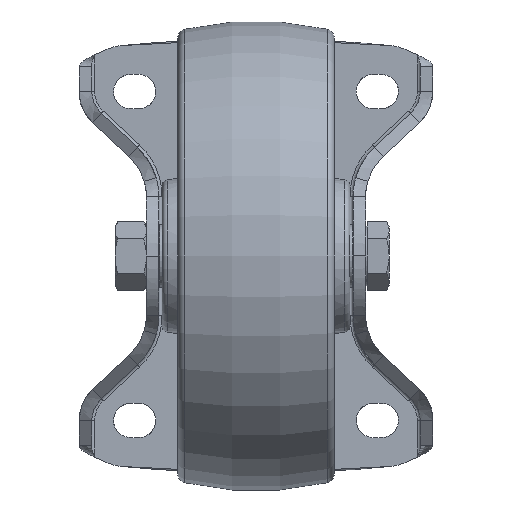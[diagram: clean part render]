
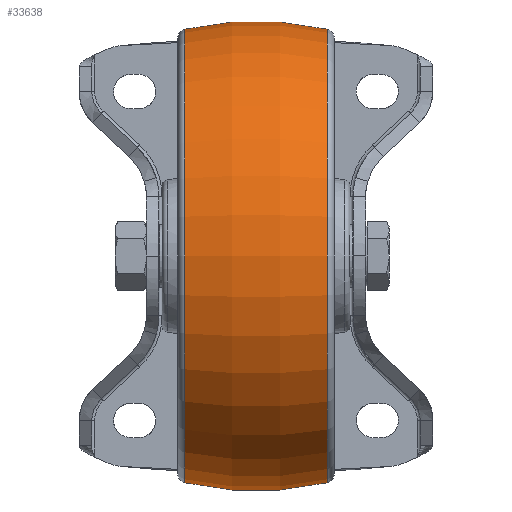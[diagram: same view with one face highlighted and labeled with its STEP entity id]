
A CAD part, front view. The second image highlights one B-rep face of the part: STEP entity #33638.
In plain terms, the highlighted toroidal (fillet/blend) face has major radius 25 mm and minor radius 100 mm.
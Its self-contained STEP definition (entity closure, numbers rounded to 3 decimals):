
#293 = ORIENTED_EDGE ( 'NONE', *, *, #36849, .F. ) ;
#294 = ORIENTED_EDGE ( 'NONE', *, *, #24505, .T. ) ;
#295 = ORIENTED_EDGE ( 'NONE', *, *, #36851, .T. ) ;
#296 = ORIENTED_EDGE ( 'NONE', *, *, #24478, .F. ) ;
#2134 = FACE_OUTER_BOUND ( 'NONE', #40035, .T. ) ;
#2154 = TOROIDAL_SURFACE ( 'NONE', #22835, -25., 100. ) ;
#8243 = AXIS2_PLACEMENT_3D ( 'NONE', #33921, #33922, #33923 ) ;
#8248 = AXIS2_PLACEMENT_3D ( 'NONE', #33927, #33928, #33929 ) ;
#9665 = CARTESIAN_POINT ( 'NONE',  ( 0., 0., 0. ) ) ;
#9684 = DIRECTION ( 'NONE',  ( -1., 0., 0. ) ) ;
#9686 = DIRECTION ( 'NONE',  ( 0., 0., 1. ) ) ;
#9794 = CIRCLE ( 'NONE', #13183, 100. ) ;
#9874 = CIRCLE ( 'NONE', #13173, 100. ) ;
#13173 = AXIS2_PLACEMENT_3D ( 'NONE', #16954, #16952, #16949 ) ;
#13183 = AXIS2_PLACEMENT_3D ( 'NONE', #17366, #17364, #17361 ) ;
#16949 = DIRECTION ( 'NONE',  ( 0., 0., -1. ) ) ;
#16952 = DIRECTION ( 'NONE',  ( 0., -1., 0. ) ) ;
#16954 = CARTESIAN_POINT ( 'NONE',  ( 0., 0., -25. ) ) ;
#17361 = DIRECTION ( 'NONE',  ( 0., 0., 1. ) ) ;
#17364 = DIRECTION ( 'NONE',  ( 0., 1., 0. ) ) ;
#17366 = CARTESIAN_POINT ( 'NONE',  ( 0., 0., 25. ) ) ;
#18083 = CARTESIAN_POINT ( 'NONE',  ( -22.68, 0., 72.394 ) ) ;
#18084 = CARTESIAN_POINT ( 'NONE',  ( -22.68, 0., -72.394 ) ) ;
#18085 = CARTESIAN_POINT ( 'NONE',  ( 22.68, 0., -72.394 ) ) ;
#18086 = CARTESIAN_POINT ( 'NONE',  ( 22.68, 0., 72.394 ) ) ;
#22835 = AXIS2_PLACEMENT_3D ( 'NONE', #9665, #9684, #9686 ) ;
#24478 = EDGE_CURVE ( 'NONE', #42190, #42188, #9794, .T. ) ;
#24505 = EDGE_CURVE ( 'NONE', #42192, #42187, #9874, .T. ) ;
#32272 = CIRCLE ( 'NONE', #8243, 72.394 ) ;
#32274 = CIRCLE ( 'NONE', #8248, 72.394 ) ;
#33638 = ADVANCED_FACE ( 'NONE', ( #2134 ), #2154, .T. ) ;
#33921 = CARTESIAN_POINT ( 'NONE',  ( -22.68, 0., 0. ) ) ;
#33922 = DIRECTION ( 'NONE',  ( -1., 0., 0. ) ) ;
#33923 = DIRECTION ( 'NONE',  ( 0., 0., 1. ) ) ;
#33927 = CARTESIAN_POINT ( 'NONE',  ( 22.68, 0., 0. ) ) ;
#33928 = DIRECTION ( 'NONE',  ( -1., 0., 0. ) ) ;
#33929 = DIRECTION ( 'NONE',  ( 0., 0., 1. ) ) ;
#36849 = EDGE_CURVE ( 'NONE', #42188, #42187, #32272, .T. ) ;
#36851 = EDGE_CURVE ( 'NONE', #42190, #42192, #32274, .T. ) ;
#40035 = EDGE_LOOP ( 'NONE', ( #296, #295, #294, #293 ) ) ;
#42187 = VERTEX_POINT ( 'NONE', #18083 ) ;
#42188 = VERTEX_POINT ( 'NONE', #18084 ) ;
#42190 = VERTEX_POINT ( 'NONE', #18085 ) ;
#42192 = VERTEX_POINT ( 'NONE', #18086 ) ;
